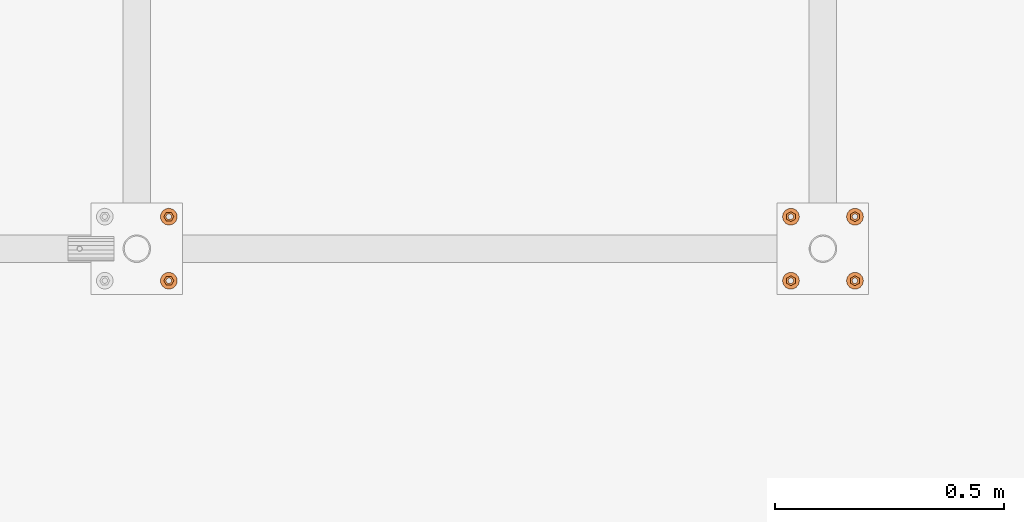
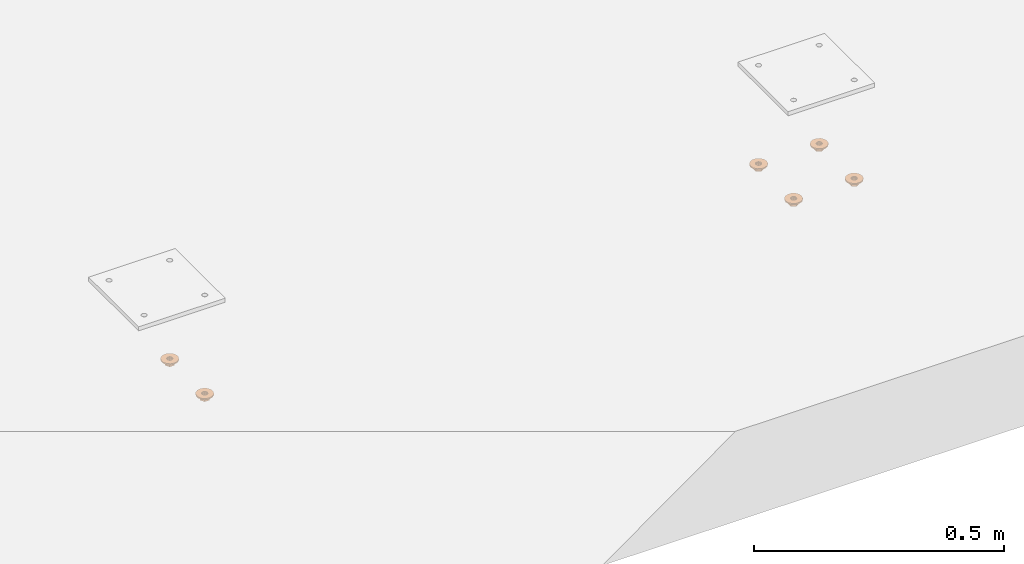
# One storey, part 27 of 30: 12 proxies.
"""IFC2X3 building model written with IfcOpenShell, lengths in millimetres."""

from ifc_helpers import new_model, entity, si_unit, converted_unit, origin_with_axes, place, context, project, spatial, faceted_brep, material, element, save


model = new_model("IFC2X3")

# Units and contexts
model_context = context("Model", 3, precision=1e-09, world=origin_with_axes())
ifc_project = project(units=[si_unit("LENGTHUNIT", "METRE", prefix="MILLI"), si_unit("AREAUNIT", "SQUARE_METRE"), si_unit("VOLUMEUNIT", "CUBIC_METRE"), converted_unit("PLANEANGLEUNIT", "DEGREE", entity("IfcPlaneAngleMeasure", 0.01745329), si_unit("PLANEANGLEUNIT", "RADIAN"), dimensions=[0, 0, 0, 0, 0, 0, 0])], contexts=[model_context])

# Site, building, storey
site_placement = place(None, origin_with_axes())
site = spatial("IfcSite", under=ifc_project, at=site_placement, Name="M?nsinger Stra?e, 81477 M?nchen", CompositionType="ELEMENT")
building_placement = place(site_placement, origin_with_axes())
building = spatial("IfcBuilding", under=site, at=building_placement, Name="Struktur 1", CompositionType="ELEMENT")
storey_placement = place(building_placement, origin_with_axes())
storey = spatial("IfcBuildingStorey", under=building, at=storey_placement, Name="Default Storey", CompositionType="ELEMENT", Elevation=0.0)

# Proxies
ifc_material = material(Name="Kein")
proxy_1_placement = place(None, origin_with_axes())
element("IfcBuildingElementProxy", 1, at=proxy_1_placement, inside=storey, material=ifc_material, ObjectType="-", context=model_context, shape_type="Brep", body=[
    faceted_brep([(7461.851234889, 1409.728698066, 6515.0), (7461.851234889, 1409.728698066, 6512.0), (7468.288268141, 1404.595335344, 6512.0), (7468.288268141, 1404.595335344, 6515.0), (7458.278950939, 1425.379896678, 6515.0), (7458.278950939, 1417.146622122, 6515.0), (7476.315117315, 1402.7632594, 6515.0), (7484.341966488, 1404.595335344, 6515.0), (7490.77899974, 1409.728698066, 6515.0), (7494.35128369, 1417.146622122, 6515.0), (7494.35128369, 1425.379896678, 6515.0), (7490.77899974, 1432.797820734, 6515.0), (7484.341966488, 1437.931183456, 6515.0), (7476.315117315, 1439.7632594, 6515.0), (7468.288268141, 1437.931183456, 6515.0), (7461.851234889, 1432.797820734, 6515.0), (7470.68595219, 1418.0132594, 6515.0), (7469.815117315, 1421.2632594, 6515.0), (7470.68595219, 1424.5132594, 6515.0), (7473.065117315, 1426.892424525, 6515.0), (7476.315117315, 1427.7632594, 6515.0), (7479.565117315, 1426.892424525, 6515.0), (7481.944282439, 1424.5132594, 6515.0), (7482.815117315, 1421.2632594, 6515.0), (7481.944282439, 1418.0132594, 6515.0), (7479.565117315, 1415.634094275, 6515.0), (7476.315117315, 1414.7632594, 6515.0), (7473.065117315, 1415.634094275, 6515.0), (7484.341966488, 1404.595335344, 6512.0), (7476.315117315, 1402.7632594, 6512.0), (7458.278950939, 1417.146622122, 6512.0), (7458.278950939, 1425.379896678, 6512.0), (7461.851234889, 1432.797820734, 6512.0), (7468.288268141, 1437.931183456, 6512.0), (7476.315117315, 1439.7632594, 6512.0), (7484.341966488, 1437.931183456, 6512.0), (7490.77899974, 1432.797820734, 6512.0), (7494.35128369, 1425.379896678, 6512.0), (7494.35128369, 1417.146622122, 6512.0), (7490.77899974, 1409.728698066, 6512.0), (7476.315117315, 1414.7632594, 6512.0), (7479.565117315, 1415.634094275, 6512.0), (7481.944282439, 1418.0132594, 6512.0), (7482.815117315, 1421.2632594, 6512.0), (7481.944282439, 1424.5132594, 6512.0), (7479.565117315, 1426.892424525, 6512.0), (7476.315117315, 1427.7632594, 6512.0), (7473.065117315, 1426.892424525, 6512.0), (7470.68595219, 1424.5132594, 6512.0), (7469.815117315, 1421.2632594, 6512.0), (7470.68595219, 1418.0132594, 6512.0), (7473.065117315, 1415.634094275, 6512.0)], [[[0, 1, 2, 3]], [[4, 5, 0, 3, 6, 7, 8, 9, 10, 11, 12, 13, 14, 15], [16, 17, 18, 19, 20, 21, 22, 23, 24, 25, 26, 27]], [[28, 29, 2, 1, 30, 31, 32, 33, 34, 35, 36, 37, 38, 39], [40, 41, 42, 43, 44, 45, 46, 47, 48, 49, 50, 51]], [[1, 0, 5, 30]], [[27, 51, 50, 16]], [[51, 27, 26, 40]], [[3, 2, 29, 6]], [[30, 5, 4, 31]], [[16, 50, 49, 17]], [[40, 26, 25, 41]], [[6, 29, 28, 7]], [[31, 4, 15, 32]], [[17, 49, 48, 18]], [[41, 25, 24, 42]], [[7, 28, 39, 8]], [[32, 15, 14, 33]], [[18, 48, 47, 19]], [[42, 24, 23, 43]], [[8, 39, 38, 9]], [[33, 14, 13, 34]], [[19, 47, 46, 20]], [[22, 44, 43, 23]], [[9, 38, 37, 10]], [[45, 21, 20, 46]], [[44, 22, 21, 45]], [[34, 13, 12, 35]], [[10, 37, 36, 11]], [[35, 12, 11, 36]]]),
])
proxy_2_placement = place(None, origin_with_axes())
element("IfcBuildingElementProxy", 2, at=proxy_2_placement, inside=storey, material=ifc_material, ObjectType="-", context=model_context, shape_type="Brep", body=[
    faceted_brep([(7476.315117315, 1415.2632594, 6512.0), (7476.315117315, 1415.2632594, 6502.0), (7473.315117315, 1416.067106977, 6502.0), (7473.315117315, 1416.067106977, 6512.0), (7471.118964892, 1418.2632594, 6502.0), (7471.118964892, 1418.2632594, 6512.0), (7479.315117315, 1416.067106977, 6512.0), (7479.315117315, 1416.067106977, 6502.0), (7481.799944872, 1411.7632594, 6512.0), (7487.284772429, 1421.2632594, 6512.0), (7481.799944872, 1430.7632594, 6512.0), (7470.830289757, 1430.7632594, 6512.0), (7465.3454622, 1421.2632594, 6512.0), (7470.830289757, 1411.7632594, 6512.0), (7481.511269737, 1418.2632594, 6512.0), (7470.315117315, 1421.2632594, 6512.0), (7471.118964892, 1424.2632594, 6512.0), (7473.315117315, 1426.459411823, 6512.0), (7476.315117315, 1427.2632594, 6512.0), (7479.315117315, 1426.459411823, 6512.0), (7481.511269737, 1424.2632594, 6512.0), (7482.315117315, 1421.2632594, 6512.0), (7487.284772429, 1421.2632594, 6502.0), (7481.799944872, 1411.7632594, 6502.0), (7470.830289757, 1411.7632594, 6502.0), (7465.3454622, 1421.2632594, 6502.0), (7470.830289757, 1430.7632594, 6502.0), (7481.799944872, 1430.7632594, 6502.0), (7481.511269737, 1418.2632594, 6502.0), (7482.315117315, 1421.2632594, 6502.0), (7481.511269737, 1424.2632594, 6502.0), (7479.315117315, 1426.459411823, 6502.0), (7476.315117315, 1427.2632594, 6502.0), (7473.315117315, 1426.459411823, 6502.0), (7471.118964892, 1424.2632594, 6502.0), (7470.315117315, 1421.2632594, 6502.0)], [[[0, 1, 2, 3]], [[3, 2, 4, 5]], [[1, 0, 6, 7]], [[8, 9, 10, 11, 12, 13], [14, 6, 0, 3, 5, 15, 16, 17, 18, 19, 20, 21]], [[22, 23, 24, 25, 26, 27], [1, 7, 28, 29, 30, 31, 32, 33, 34, 35, 4, 2]], [[7, 6, 14, 28]], [[24, 23, 8, 13]], [[5, 4, 35, 15]], [[13, 12, 25, 24]], [[28, 14, 21, 29]], [[23, 22, 9, 8]], [[15, 35, 34, 16]], [[12, 11, 26, 25]], [[29, 21, 20, 30]], [[22, 27, 10, 9]], [[16, 34, 33, 17]], [[27, 26, 11, 10]], [[30, 20, 19, 31]], [[17, 33, 32, 18]], [[31, 19, 18, 32]]]),
])
proxy_3_placement = place(None, origin_with_axes())
element("IfcBuildingElementProxy", 3, at=proxy_3_placement, inside=storey, material=ifc_material, ObjectType="-", context=model_context, shape_type="Brep", body=[
    faceted_brep([(7476.315117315, 1555.2632594, 6512.0), (7476.315117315, 1555.2632594, 6502.0), (7473.315117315, 1556.067106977, 6502.0), (7473.315117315, 1556.067106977, 6512.0), (7471.118964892, 1558.2632594, 6502.0), (7471.118964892, 1558.2632594, 6512.0), (7479.315117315, 1556.067106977, 6512.0), (7479.315117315, 1556.067106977, 6502.0), (7481.799944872, 1551.7632594, 6512.0), (7487.284772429, 1561.2632594, 6512.0), (7481.799944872, 1570.7632594, 6512.0), (7470.830289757, 1570.7632594, 6512.0), (7465.3454622, 1561.2632594, 6512.0), (7470.830289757, 1551.7632594, 6512.0), (7481.511269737, 1558.2632594, 6512.0), (7470.315117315, 1561.2632594, 6512.0), (7471.118964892, 1564.2632594, 6512.0), (7473.315117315, 1566.459411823, 6512.0), (7476.315117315, 1567.2632594, 6512.0), (7479.315117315, 1566.459411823, 6512.0), (7481.511269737, 1564.2632594, 6512.0), (7482.315117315, 1561.2632594, 6512.0), (7487.284772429, 1561.2632594, 6502.0), (7481.799944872, 1551.7632594, 6502.0), (7470.830289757, 1551.7632594, 6502.0), (7465.3454622, 1561.2632594, 6502.0), (7470.830289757, 1570.7632594, 6502.0), (7481.799944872, 1570.7632594, 6502.0), (7481.511269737, 1558.2632594, 6502.0), (7482.315117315, 1561.2632594, 6502.0), (7481.511269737, 1564.2632594, 6502.0), (7479.315117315, 1566.459411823, 6502.0), (7476.315117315, 1567.2632594, 6502.0), (7473.315117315, 1566.459411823, 6502.0), (7471.118964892, 1564.2632594, 6502.0), (7470.315117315, 1561.2632594, 6502.0)], [[[0, 1, 2, 3]], [[3, 2, 4, 5]], [[1, 0, 6, 7]], [[8, 9, 10, 11, 12, 13], [14, 6, 0, 3, 5, 15, 16, 17, 18, 19, 20, 21]], [[22, 23, 24, 25, 26, 27], [1, 7, 28, 29, 30, 31, 32, 33, 34, 35, 4, 2]], [[7, 6, 14, 28]], [[24, 23, 8, 13]], [[5, 4, 35, 15]], [[13, 12, 25, 24]], [[28, 14, 21, 29]], [[23, 22, 9, 8]], [[15, 35, 34, 16]], [[12, 11, 26, 25]], [[29, 21, 20, 30]], [[22, 27, 10, 9]], [[16, 34, 33, 17]], [[27, 26, 11, 10]], [[30, 20, 19, 31]], [[17, 33, 32, 18]], [[31, 19, 18, 32]]]),
])
proxy_4_placement = place(None, origin_with_axes())
element("IfcBuildingElementProxy", 4, at=proxy_4_placement, inside=storey, material=ifc_material, ObjectType="-", context=model_context, shape_type="Brep", body=[
    faceted_brep([(7461.851234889, 1549.728698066, 6515.0), (7461.851234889, 1549.728698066, 6512.0), (7468.288268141, 1544.595335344, 6512.0), (7468.288268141, 1544.595335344, 6515.0), (7458.278950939, 1565.379896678, 6515.0), (7458.278950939, 1557.146622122, 6515.0), (7476.315117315, 1542.7632594, 6515.0), (7484.341966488, 1544.595335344, 6515.0), (7490.77899974, 1549.728698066, 6515.0), (7494.35128369, 1557.146622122, 6515.0), (7494.35128369, 1565.379896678, 6515.0), (7490.77899974, 1572.797820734, 6515.0), (7484.341966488, 1577.931183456, 6515.0), (7476.315117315, 1579.7632594, 6515.0), (7468.288268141, 1577.931183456, 6515.0), (7461.851234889, 1572.797820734, 6515.0), (7470.68595219, 1558.0132594, 6515.0), (7469.815117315, 1561.2632594, 6515.0), (7470.68595219, 1564.5132594, 6515.0), (7473.065117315, 1566.892424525, 6515.0), (7476.315117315, 1567.7632594, 6515.0), (7479.565117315, 1566.892424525, 6515.0), (7481.944282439, 1564.5132594, 6515.0), (7482.815117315, 1561.2632594, 6515.0), (7481.944282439, 1558.0132594, 6515.0), (7479.565117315, 1555.634094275, 6515.0), (7476.315117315, 1554.7632594, 6515.0), (7473.065117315, 1555.634094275, 6515.0), (7484.341966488, 1544.595335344, 6512.0), (7476.315117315, 1542.7632594, 6512.0), (7458.278950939, 1557.146622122, 6512.0), (7458.278950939, 1565.379896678, 6512.0), (7461.851234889, 1572.797820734, 6512.0), (7468.288268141, 1577.931183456, 6512.0), (7476.315117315, 1579.7632594, 6512.0), (7484.341966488, 1577.931183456, 6512.0), (7490.77899974, 1572.797820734, 6512.0), (7494.35128369, 1565.379896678, 6512.0), (7494.35128369, 1557.146622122, 6512.0), (7490.77899974, 1549.728698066, 6512.0), (7476.315117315, 1554.7632594, 6512.0), (7479.565117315, 1555.634094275, 6512.0), (7481.944282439, 1558.0132594, 6512.0), (7482.815117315, 1561.2632594, 6512.0), (7481.944282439, 1564.5132594, 6512.0), (7479.565117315, 1566.892424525, 6512.0), (7476.315117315, 1567.7632594, 6512.0), (7473.065117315, 1566.892424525, 6512.0), (7470.68595219, 1564.5132594, 6512.0), (7469.815117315, 1561.2632594, 6512.0), (7470.68595219, 1558.0132594, 6512.0), (7473.065117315, 1555.634094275, 6512.0)], [[[0, 1, 2, 3]], [[4, 5, 0, 3, 6, 7, 8, 9, 10, 11, 12, 13, 14, 15], [16, 17, 18, 19, 20, 21, 22, 23, 24, 25, 26, 27]], [[28, 29, 2, 1, 30, 31, 32, 33, 34, 35, 36, 37, 38, 39], [40, 41, 42, 43, 44, 45, 46, 47, 48, 49, 50, 51]], [[1, 0, 5, 30]], [[27, 51, 50, 16]], [[51, 27, 26, 40]], [[3, 2, 29, 6]], [[30, 5, 4, 31]], [[16, 50, 49, 17]], [[40, 26, 25, 41]], [[6, 29, 28, 7]], [[31, 4, 15, 32]], [[17, 49, 48, 18]], [[41, 25, 24, 42]], [[7, 28, 39, 8]], [[32, 15, 14, 33]], [[18, 48, 47, 19]], [[42, 24, 23, 43]], [[8, 39, 38, 9]], [[33, 14, 13, 34]], [[19, 47, 46, 20]], [[22, 44, 43, 23]], [[9, 38, 37, 10]], [[45, 21, 20, 46]], [[44, 22, 21, 45]], [[34, 13, 12, 35]], [[10, 37, 36, 11]], [[35, 12, 11, 36]]]),
])
proxy_5_placement = place(None, origin_with_axes())
element("IfcBuildingElementProxy", 5, at=proxy_5_placement, inside=storey, material=ifc_material, ObjectType="-", context=model_context, shape_type="Brep", body=[
    faceted_brep([(8987.849678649, 1435.727141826, 6512.0), (8987.849678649, 1435.727141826, 6515.0), (8992.983041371, 1429.290108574, 6515.0), (8992.983041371, 1429.290108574, 6512.0), (8980.431754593, 1439.299425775, 6515.0), (8972.198480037, 1439.299425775, 6515.0), (8964.78055598, 1435.727141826, 6515.0), (8959.647193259, 1429.290108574, 6515.0), (8957.815117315, 1421.2632594, 6515.0), (8959.647193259, 1413.236410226, 6515.0), (8964.78055598, 1406.799376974, 6515.0), (8972.198480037, 1403.227093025, 6515.0), (8980.431754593, 1403.227093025, 6515.0), (8987.849678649, 1406.799376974, 6515.0), (8992.983041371, 1413.236410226, 6515.0), (8994.815117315, 1421.2632594, 6515.0), (8979.565117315, 1426.892424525, 6515.0), (8981.944282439, 1424.5132594, 6515.0), (8982.815117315, 1421.2632594, 6515.0), (8981.944282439, 1418.0132594, 6515.0), (8979.565117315, 1415.634094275, 6515.0), (8976.315117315, 1414.7632594, 6515.0), (8973.065117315, 1415.634094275, 6515.0), (8970.68595219, 1418.0132594, 6515.0), (8969.815117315, 1421.2632594, 6515.0), (8970.68595219, 1424.5132594, 6515.0), (8973.065117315, 1426.892424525, 6515.0), (8976.315117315, 1427.7632594, 6515.0), (8994.815117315, 1421.2632594, 6512.0), (8992.983041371, 1413.236410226, 6512.0), (8987.849678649, 1406.799376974, 6512.0), (8980.431754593, 1403.227093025, 6512.0), (8972.198480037, 1403.227093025, 6512.0), (8964.78055598, 1406.799376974, 6512.0), (8959.647193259, 1413.236410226, 6512.0), (8957.815117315, 1421.2632594, 6512.0), (8959.647193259, 1429.290108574, 6512.0), (8964.78055598, 1435.727141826, 6512.0), (8972.198480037, 1439.299425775, 6512.0), (8980.431754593, 1439.299425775, 6512.0), (8982.815117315, 1421.2632594, 6512.0), (8981.944282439, 1424.5132594, 6512.0), (8979.565117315, 1426.892424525, 6512.0), (8976.315117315, 1427.7632594, 6512.0), (8973.065117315, 1426.892424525, 6512.0), (8970.68595219, 1424.5132594, 6512.0), (8969.815117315, 1421.2632594, 6512.0), (8970.68595219, 1418.0132594, 6512.0), (8973.065117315, 1415.634094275, 6512.0), (8976.315117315, 1414.7632594, 6512.0), (8979.565117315, 1415.634094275, 6512.0), (8981.944282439, 1418.0132594, 6512.0)], [[[0, 1, 2, 3]], [[4, 5, 6, 7, 8, 9, 10, 11, 12, 13, 14, 15, 2, 1], [16, 17, 18, 19, 20, 21, 22, 23, 24, 25, 26, 27]], [[28, 29, 30, 31, 32, 33, 34, 35, 36, 37, 38, 39, 0, 3], [40, 41, 42, 43, 44, 45, 46, 47, 48, 49, 50, 51]], [[1, 0, 39, 4]], [[41, 17, 16, 42]], [[17, 41, 40, 18]], [[3, 2, 15, 28]], [[4, 39, 38, 5]], [[42, 16, 27, 43]], [[18, 40, 51, 19]], [[28, 15, 14, 29]], [[5, 38, 37, 6]], [[43, 27, 26, 44]], [[19, 51, 50, 20]], [[29, 14, 13, 30]], [[6, 37, 36, 7]], [[44, 26, 25, 45]], [[20, 50, 49, 21]], [[30, 13, 12, 31]], [[7, 36, 35, 8]], [[45, 25, 24, 46]], [[48, 22, 21, 49]], [[31, 12, 11, 32]], [[23, 47, 46, 24]], [[22, 48, 47, 23]], [[8, 35, 34, 9]], [[32, 11, 10, 33]], [[9, 34, 33, 10]]]),
])
proxy_6_placement = place(None, origin_with_axes())
element("IfcBuildingElementProxy", 6, at=proxy_6_placement, inside=storey, material=ifc_material, ObjectType="-", context=model_context, shape_type="Brep", body=[
    faceted_brep([(8982.315117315, 1421.2632594, 6502.0), (8982.315117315, 1421.2632594, 6512.0), (8981.511269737, 1424.2632594, 6512.0), (8981.511269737, 1424.2632594, 6502.0), (8979.315117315, 1426.459411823, 6512.0), (8979.315117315, 1426.459411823, 6502.0), (8981.511269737, 1418.2632594, 6502.0), (8981.511269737, 1418.2632594, 6512.0), (8985.815117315, 1415.778431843, 6512.0), (8985.815117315, 1426.748086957, 6512.0), (8976.315117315, 1432.232914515, 6512.0), (8966.815117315, 1426.748086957, 6512.0), (8966.815117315, 1415.778431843, 6512.0), (8976.315117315, 1410.293604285, 6512.0), (8979.315117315, 1416.067106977, 6512.0), (8976.315117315, 1415.2632594, 6512.0), (8973.315117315, 1416.067106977, 6512.0), (8971.118964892, 1418.2632594, 6512.0), (8970.315117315, 1421.2632594, 6512.0), (8971.118964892, 1424.2632594, 6512.0), (8973.315117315, 1426.459411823, 6512.0), (8976.315117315, 1427.2632594, 6512.0), (8985.815117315, 1415.778431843, 6502.0), (8976.315117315, 1410.293604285, 6502.0), (8966.815117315, 1415.778431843, 6502.0), (8966.815117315, 1426.748086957, 6502.0), (8976.315117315, 1432.232914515, 6502.0), (8985.815117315, 1426.748086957, 6502.0), (8979.315117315, 1416.067106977, 6502.0), (8976.315117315, 1427.2632594, 6502.0), (8976.315117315, 1415.2632594, 6502.0), (8973.315117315, 1426.459411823, 6502.0), (8973.315117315, 1416.067106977, 6502.0), (8971.118964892, 1424.2632594, 6502.0), (8971.118964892, 1418.2632594, 6502.0), (8970.315117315, 1421.2632594, 6502.0)], [[[0, 1, 2, 3]], [[3, 2, 4, 5]], [[1, 0, 6, 7]], [[8, 9, 10, 11, 12, 13], [7, 14, 15, 16, 17, 18, 19, 20, 21, 4, 2, 1]], [[22, 23, 24, 25, 26, 27]], [[7, 6, 28, 14]], [[22, 27, 9, 8]], [[5, 4, 21, 29]], [[10, 9, 27, 26]], [[14, 28, 30, 15]], [[23, 22, 8, 13]], [[29, 21, 20, 31]], [[11, 10, 26, 25]], [[15, 30, 32, 16]], [[24, 23, 13, 12]], [[31, 20, 19, 33]], [[25, 24, 12, 11]], [[16, 32, 34, 17]], [[33, 19, 18, 35]], [[17, 34, 35, 18]]]),
])
proxy_7_placement = place(None, origin_with_axes())
element("IfcBuildingElementProxy", 7, at=proxy_7_placement, inside=storey, material=ifc_material, ObjectType="-", context=model_context, shape_type="Brep", body=[
    faceted_brep([(8842.315117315, 1421.2632594, 6502.0), (8842.315117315, 1421.2632594, 6512.0), (8841.511269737, 1424.2632594, 6512.0), (8841.511269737, 1424.2632594, 6502.0), (8839.315117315, 1426.459411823, 6512.0), (8839.315117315, 1426.459411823, 6502.0), (8841.511269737, 1418.2632594, 6502.0), (8841.511269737, 1418.2632594, 6512.0), (8845.815117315, 1415.778431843, 6512.0), (8845.815117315, 1426.748086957, 6512.0), (8836.315117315, 1432.232914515, 6512.0), (8826.815117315, 1426.748086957, 6512.0), (8826.815117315, 1415.778431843, 6512.0), (8836.315117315, 1410.293604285, 6512.0), (8839.315117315, 1416.067106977, 6512.0), (8836.315117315, 1415.2632594, 6512.0), (8833.315117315, 1416.067106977, 6512.0), (8831.118964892, 1418.2632594, 6512.0), (8830.315117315, 1421.2632594, 6512.0), (8831.118964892, 1424.2632594, 6512.0), (8833.315117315, 1426.459411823, 6512.0), (8836.315117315, 1427.2632594, 6512.0), (8845.815117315, 1415.778431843, 6502.0), (8836.315117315, 1410.293604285, 6502.0), (8826.815117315, 1415.778431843, 6502.0), (8826.815117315, 1426.748086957, 6502.0), (8836.315117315, 1432.232914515, 6502.0), (8845.815117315, 1426.748086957, 6502.0), (8839.315117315, 1416.067106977, 6502.0), (8836.315117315, 1427.2632594, 6502.0), (8836.315117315, 1415.2632594, 6502.0), (8833.315117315, 1426.459411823, 6502.0), (8833.315117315, 1416.067106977, 6502.0), (8831.118964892, 1424.2632594, 6502.0), (8831.118964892, 1418.2632594, 6502.0), (8830.315117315, 1421.2632594, 6502.0)], [[[0, 1, 2, 3]], [[3, 2, 4, 5]], [[1, 0, 6, 7]], [[8, 9, 10, 11, 12, 13], [7, 14, 15, 16, 17, 18, 19, 20, 21, 4, 2, 1]], [[22, 23, 24, 25, 26, 27]], [[7, 6, 28, 14]], [[22, 27, 9, 8]], [[5, 4, 21, 29]], [[10, 9, 27, 26]], [[14, 28, 30, 15]], [[23, 22, 8, 13]], [[29, 21, 20, 31]], [[11, 10, 26, 25]], [[15, 30, 32, 16]], [[24, 23, 13, 12]], [[31, 20, 19, 33]], [[25, 24, 12, 11]], [[16, 32, 34, 17]], [[33, 19, 18, 35]], [[17, 34, 35, 18]]]),
])
proxy_8_placement = place(None, origin_with_axes())
element("IfcBuildingElementProxy", 8, at=proxy_8_placement, inside=storey, material=ifc_material, ObjectType="-", context=model_context, shape_type="Brep", body=[
    faceted_brep([(8847.849678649, 1435.727141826, 6512.0), (8847.849678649, 1435.727141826, 6515.0), (8852.983041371, 1429.290108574, 6515.0), (8852.983041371, 1429.290108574, 6512.0), (8840.431754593, 1439.299425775, 6515.0), (8832.198480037, 1439.299425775, 6515.0), (8824.78055598, 1435.727141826, 6515.0), (8819.647193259, 1429.290108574, 6515.0), (8817.815117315, 1421.2632594, 6515.0), (8819.647193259, 1413.236410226, 6515.0), (8824.78055598, 1406.799376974, 6515.0), (8832.198480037, 1403.227093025, 6515.0), (8840.431754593, 1403.227093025, 6515.0), (8847.849678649, 1406.799376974, 6515.0), (8852.983041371, 1413.236410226, 6515.0), (8854.815117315, 1421.2632594, 6515.0), (8839.565117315, 1426.892424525, 6515.0), (8841.944282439, 1424.5132594, 6515.0), (8842.815117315, 1421.2632594, 6515.0), (8841.944282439, 1418.0132594, 6515.0), (8839.565117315, 1415.634094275, 6515.0), (8836.315117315, 1414.7632594, 6515.0), (8833.065117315, 1415.634094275, 6515.0), (8830.68595219, 1418.0132594, 6515.0), (8829.815117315, 1421.2632594, 6515.0), (8830.68595219, 1424.5132594, 6515.0), (8833.065117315, 1426.892424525, 6515.0), (8836.315117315, 1427.7632594, 6515.0), (8854.815117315, 1421.2632594, 6512.0), (8852.983041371, 1413.236410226, 6512.0), (8847.849678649, 1406.799376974, 6512.0), (8840.431754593, 1403.227093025, 6512.0), (8832.198480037, 1403.227093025, 6512.0), (8824.78055598, 1406.799376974, 6512.0), (8819.647193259, 1413.236410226, 6512.0), (8817.815117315, 1421.2632594, 6512.0), (8819.647193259, 1429.290108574, 6512.0), (8824.78055598, 1435.727141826, 6512.0), (8832.198480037, 1439.299425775, 6512.0), (8840.431754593, 1439.299425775, 6512.0), (8842.815117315, 1421.2632594, 6512.0), (8841.944282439, 1424.5132594, 6512.0), (8839.565117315, 1426.892424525, 6512.0), (8836.315117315, 1427.7632594, 6512.0), (8833.065117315, 1426.892424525, 6512.0), (8830.68595219, 1424.5132594, 6512.0), (8829.815117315, 1421.2632594, 6512.0), (8830.68595219, 1418.0132594, 6512.0), (8833.065117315, 1415.634094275, 6512.0), (8836.315117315, 1414.7632594, 6512.0), (8839.565117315, 1415.634094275, 6512.0), (8841.944282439, 1418.0132594, 6512.0)], [[[0, 1, 2, 3]], [[4, 5, 6, 7, 8, 9, 10, 11, 12, 13, 14, 15, 2, 1], [16, 17, 18, 19, 20, 21, 22, 23, 24, 25, 26, 27]], [[28, 29, 30, 31, 32, 33, 34, 35, 36, 37, 38, 39, 0, 3], [40, 41, 42, 43, 44, 45, 46, 47, 48, 49, 50, 51]], [[1, 0, 39, 4]], [[41, 17, 16, 42]], [[17, 41, 40, 18]], [[3, 2, 15, 28]], [[4, 39, 38, 5]], [[42, 16, 27, 43]], [[18, 40, 51, 19]], [[28, 15, 14, 29]], [[5, 38, 37, 6]], [[43, 27, 26, 44]], [[19, 51, 50, 20]], [[29, 14, 13, 30]], [[6, 37, 36, 7]], [[44, 26, 25, 45]], [[20, 50, 49, 21]], [[30, 13, 12, 31]], [[7, 36, 35, 8]], [[45, 25, 24, 46]], [[48, 22, 21, 49]], [[31, 12, 11, 32]], [[23, 47, 46, 24]], [[22, 48, 47, 23]], [[8, 35, 34, 9]], [[32, 11, 10, 33]], [[9, 34, 33, 10]]]),
])
proxy_9_placement = place(None, origin_with_axes())
element("IfcBuildingElementProxy", 9, at=proxy_9_placement, inside=storey, material=ifc_material, ObjectType="-", context=model_context, shape_type="Brep", body=[
    faceted_brep([(8847.849678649, 1575.727141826, 6512.0), (8847.849678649, 1575.727141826, 6515.0), (8852.983041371, 1569.290108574, 6515.0), (8852.983041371, 1569.290108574, 6512.0), (8840.431754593, 1579.299425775, 6515.0), (8832.198480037, 1579.299425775, 6515.0), (8824.78055598, 1575.727141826, 6515.0), (8819.647193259, 1569.290108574, 6515.0), (8817.815117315, 1561.2632594, 6515.0), (8819.647193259, 1553.236410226, 6515.0), (8824.78055598, 1546.799376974, 6515.0), (8832.198480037, 1543.227093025, 6515.0), (8840.431754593, 1543.227093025, 6515.0), (8847.849678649, 1546.799376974, 6515.0), (8852.983041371, 1553.236410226, 6515.0), (8854.815117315, 1561.2632594, 6515.0), (8839.565117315, 1566.892424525, 6515.0), (8841.944282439, 1564.5132594, 6515.0), (8842.815117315, 1561.2632594, 6515.0), (8841.944282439, 1558.0132594, 6515.0), (8839.565117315, 1555.634094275, 6515.0), (8836.315117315, 1554.7632594, 6515.0), (8833.065117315, 1555.634094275, 6515.0), (8830.68595219, 1558.0132594, 6515.0), (8829.815117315, 1561.2632594, 6515.0), (8830.68595219, 1564.5132594, 6515.0), (8833.065117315, 1566.892424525, 6515.0), (8836.315117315, 1567.7632594, 6515.0), (8854.815117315, 1561.2632594, 6512.0), (8852.983041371, 1553.236410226, 6512.0), (8847.849678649, 1546.799376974, 6512.0), (8840.431754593, 1543.227093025, 6512.0), (8832.198480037, 1543.227093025, 6512.0), (8824.78055598, 1546.799376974, 6512.0), (8819.647193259, 1553.236410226, 6512.0), (8817.815117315, 1561.2632594, 6512.0), (8819.647193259, 1569.290108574, 6512.0), (8824.78055598, 1575.727141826, 6512.0), (8832.198480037, 1579.299425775, 6512.0), (8840.431754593, 1579.299425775, 6512.0), (8842.815117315, 1561.2632594, 6512.0), (8841.944282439, 1564.5132594, 6512.0), (8839.565117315, 1566.892424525, 6512.0), (8836.315117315, 1567.7632594, 6512.0), (8833.065117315, 1566.892424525, 6512.0), (8830.68595219, 1564.5132594, 6512.0), (8829.815117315, 1561.2632594, 6512.0), (8830.68595219, 1558.0132594, 6512.0), (8833.065117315, 1555.634094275, 6512.0), (8836.315117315, 1554.7632594, 6512.0), (8839.565117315, 1555.634094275, 6512.0), (8841.944282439, 1558.0132594, 6512.0)], [[[0, 1, 2, 3]], [[4, 5, 6, 7, 8, 9, 10, 11, 12, 13, 14, 15, 2, 1], [16, 17, 18, 19, 20, 21, 22, 23, 24, 25, 26, 27]], [[28, 29, 30, 31, 32, 33, 34, 35, 36, 37, 38, 39, 0, 3], [40, 41, 42, 43, 44, 45, 46, 47, 48, 49, 50, 51]], [[1, 0, 39, 4]], [[41, 17, 16, 42]], [[17, 41, 40, 18]], [[3, 2, 15, 28]], [[4, 39, 38, 5]], [[42, 16, 27, 43]], [[18, 40, 51, 19]], [[28, 15, 14, 29]], [[5, 38, 37, 6]], [[43, 27, 26, 44]], [[19, 51, 50, 20]], [[29, 14, 13, 30]], [[6, 37, 36, 7]], [[44, 26, 25, 45]], [[20, 50, 49, 21]], [[30, 13, 12, 31]], [[7, 36, 35, 8]], [[45, 25, 24, 46]], [[48, 22, 21, 49]], [[31, 12, 11, 32]], [[23, 47, 46, 24]], [[22, 48, 47, 23]], [[8, 35, 34, 9]], [[32, 11, 10, 33]], [[9, 34, 33, 10]]]),
])
proxy_10_placement = place(None, origin_with_axes())
element("IfcBuildingElementProxy", 10, at=proxy_10_placement, inside=storey, material=ifc_material, ObjectType="-", context=model_context, shape_type="Brep", body=[
    faceted_brep([(8842.315117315, 1561.2632594, 6502.0), (8842.315117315, 1561.2632594, 6512.0), (8841.511269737, 1564.2632594, 6512.0), (8841.511269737, 1564.2632594, 6502.0), (8839.315117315, 1566.459411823, 6512.0), (8839.315117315, 1566.459411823, 6502.0), (8841.511269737, 1558.2632594, 6502.0), (8841.511269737, 1558.2632594, 6512.0), (8845.815117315, 1555.778431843, 6512.0), (8845.815117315, 1566.748086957, 6512.0), (8836.315117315, 1572.232914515, 6512.0), (8826.815117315, 1566.748086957, 6512.0), (8826.815117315, 1555.778431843, 6512.0), (8836.315117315, 1550.293604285, 6512.0), (8839.315117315, 1556.067106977, 6512.0), (8836.315117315, 1555.2632594, 6512.0), (8833.315117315, 1556.067106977, 6512.0), (8831.118964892, 1558.2632594, 6512.0), (8830.315117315, 1561.2632594, 6512.0), (8831.118964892, 1564.2632594, 6512.0), (8833.315117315, 1566.459411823, 6512.0), (8836.315117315, 1567.2632594, 6512.0), (8845.815117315, 1555.778431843, 6502.0), (8836.315117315, 1550.293604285, 6502.0), (8826.815117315, 1555.778431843, 6502.0), (8826.815117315, 1566.748086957, 6502.0), (8836.315117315, 1572.232914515, 6502.0), (8845.815117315, 1566.748086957, 6502.0), (8839.315117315, 1556.067106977, 6502.0), (8836.315117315, 1567.2632594, 6502.0), (8836.315117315, 1555.2632594, 6502.0), (8833.315117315, 1566.459411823, 6502.0), (8833.315117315, 1556.067106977, 6502.0), (8831.118964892, 1564.2632594, 6502.0), (8831.118964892, 1558.2632594, 6502.0), (8830.315117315, 1561.2632594, 6502.0)], [[[0, 1, 2, 3]], [[3, 2, 4, 5]], [[1, 0, 6, 7]], [[8, 9, 10, 11, 12, 13], [7, 14, 15, 16, 17, 18, 19, 20, 21, 4, 2, 1]], [[22, 23, 24, 25, 26, 27]], [[7, 6, 28, 14]], [[22, 27, 9, 8]], [[5, 4, 21, 29]], [[10, 9, 27, 26]], [[14, 28, 30, 15]], [[23, 22, 8, 13]], [[29, 21, 20, 31]], [[11, 10, 26, 25]], [[15, 30, 32, 16]], [[24, 23, 13, 12]], [[31, 20, 19, 33]], [[25, 24, 12, 11]], [[16, 32, 34, 17]], [[33, 19, 18, 35]], [[17, 34, 35, 18]]]),
])
proxy_11_placement = place(None, origin_with_axes())
element("IfcBuildingElementProxy", 11, at=proxy_11_placement, inside=storey, material=ifc_material, ObjectType="-", context=model_context, shape_type="Brep", body=[
    faceted_brep([(8982.315117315, 1561.2632594, 6502.0), (8982.315117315, 1561.2632594, 6512.0), (8981.511269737, 1564.2632594, 6512.0), (8981.511269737, 1564.2632594, 6502.0), (8979.315117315, 1566.459411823, 6512.0), (8979.315117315, 1566.459411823, 6502.0), (8981.511269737, 1558.2632594, 6502.0), (8981.511269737, 1558.2632594, 6512.0), (8985.815117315, 1555.778431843, 6512.0), (8985.815117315, 1566.748086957, 6512.0), (8976.315117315, 1572.232914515, 6512.0), (8966.815117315, 1566.748086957, 6512.0), (8966.815117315, 1555.778431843, 6512.0), (8976.315117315, 1550.293604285, 6512.0), (8979.315117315, 1556.067106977, 6512.0), (8976.315117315, 1555.2632594, 6512.0), (8973.315117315, 1556.067106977, 6512.0), (8971.118964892, 1558.2632594, 6512.0), (8970.315117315, 1561.2632594, 6512.0), (8971.118964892, 1564.2632594, 6512.0), (8973.315117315, 1566.459411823, 6512.0), (8976.315117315, 1567.2632594, 6512.0), (8985.815117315, 1555.778431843, 6502.0), (8976.315117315, 1550.293604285, 6502.0), (8966.815117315, 1555.778431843, 6502.0), (8966.815117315, 1566.748086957, 6502.0), (8976.315117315, 1572.232914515, 6502.0), (8985.815117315, 1566.748086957, 6502.0), (8979.315117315, 1556.067106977, 6502.0), (8976.315117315, 1567.2632594, 6502.0), (8976.315117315, 1555.2632594, 6502.0), (8973.315117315, 1566.459411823, 6502.0), (8973.315117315, 1556.067106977, 6502.0), (8971.118964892, 1564.2632594, 6502.0), (8971.118964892, 1558.2632594, 6502.0), (8970.315117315, 1561.2632594, 6502.0)], [[[0, 1, 2, 3]], [[3, 2, 4, 5]], [[1, 0, 6, 7]], [[8, 9, 10, 11, 12, 13], [7, 14, 15, 16, 17, 18, 19, 20, 21, 4, 2, 1]], [[22, 23, 24, 25, 26, 27]], [[7, 6, 28, 14]], [[22, 27, 9, 8]], [[5, 4, 21, 29]], [[10, 9, 27, 26]], [[14, 28, 30, 15]], [[23, 22, 8, 13]], [[29, 21, 20, 31]], [[11, 10, 26, 25]], [[15, 30, 32, 16]], [[24, 23, 13, 12]], [[31, 20, 19, 33]], [[25, 24, 12, 11]], [[16, 32, 34, 17]], [[33, 19, 18, 35]], [[17, 34, 35, 18]]]),
])
proxy_12_placement = place(None, origin_with_axes())
element("IfcBuildingElementProxy", 12, at=proxy_12_placement, inside=storey, material=ifc_material, ObjectType="-", context=model_context, shape_type="Brep", body=[
    faceted_brep([(8987.849678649, 1575.727141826, 6512.0), (8987.849678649, 1575.727141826, 6515.0), (8992.983041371, 1569.290108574, 6515.0), (8992.983041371, 1569.290108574, 6512.0), (8980.431754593, 1579.299425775, 6515.0), (8972.198480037, 1579.299425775, 6515.0), (8964.78055598, 1575.727141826, 6515.0), (8959.647193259, 1569.290108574, 6515.0), (8957.815117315, 1561.2632594, 6515.0), (8959.647193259, 1553.236410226, 6515.0), (8964.78055598, 1546.799376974, 6515.0), (8972.198480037, 1543.227093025, 6515.0), (8980.431754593, 1543.227093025, 6515.0), (8987.849678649, 1546.799376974, 6515.0), (8992.983041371, 1553.236410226, 6515.0), (8994.815117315, 1561.2632594, 6515.0), (8979.565117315, 1566.892424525, 6515.0), (8981.944282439, 1564.5132594, 6515.0), (8982.815117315, 1561.2632594, 6515.0), (8981.944282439, 1558.0132594, 6515.0), (8979.565117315, 1555.634094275, 6515.0), (8976.315117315, 1554.7632594, 6515.0), (8973.065117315, 1555.634094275, 6515.0), (8970.68595219, 1558.0132594, 6515.0), (8969.815117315, 1561.2632594, 6515.0), (8970.68595219, 1564.5132594, 6515.0), (8973.065117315, 1566.892424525, 6515.0), (8976.315117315, 1567.7632594, 6515.0), (8994.815117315, 1561.2632594, 6512.0), (8992.983041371, 1553.236410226, 6512.0), (8987.849678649, 1546.799376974, 6512.0), (8980.431754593, 1543.227093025, 6512.0), (8972.198480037, 1543.227093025, 6512.0), (8964.78055598, 1546.799376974, 6512.0), (8959.647193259, 1553.236410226, 6512.0), (8957.815117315, 1561.2632594, 6512.0), (8959.647193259, 1569.290108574, 6512.0), (8964.78055598, 1575.727141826, 6512.0), (8972.198480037, 1579.299425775, 6512.0), (8980.431754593, 1579.299425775, 6512.0), (8982.815117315, 1561.2632594, 6512.0), (8981.944282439, 1564.5132594, 6512.0), (8979.565117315, 1566.892424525, 6512.0), (8976.315117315, 1567.7632594, 6512.0), (8973.065117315, 1566.892424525, 6512.0), (8970.68595219, 1564.5132594, 6512.0), (8969.815117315, 1561.2632594, 6512.0), (8970.68595219, 1558.0132594, 6512.0), (8973.065117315, 1555.634094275, 6512.0), (8976.315117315, 1554.7632594, 6512.0), (8979.565117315, 1555.634094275, 6512.0), (8981.944282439, 1558.0132594, 6512.0)], [[[0, 1, 2, 3]], [[4, 5, 6, 7, 8, 9, 10, 11, 12, 13, 14, 15, 2, 1], [16, 17, 18, 19, 20, 21, 22, 23, 24, 25, 26, 27]], [[28, 29, 30, 31, 32, 33, 34, 35, 36, 37, 38, 39, 0, 3], [40, 41, 42, 43, 44, 45, 46, 47, 48, 49, 50, 51]], [[1, 0, 39, 4]], [[41, 17, 16, 42]], [[17, 41, 40, 18]], [[3, 2, 15, 28]], [[4, 39, 38, 5]], [[42, 16, 27, 43]], [[18, 40, 51, 19]], [[28, 15, 14, 29]], [[5, 38, 37, 6]], [[43, 27, 26, 44]], [[19, 51, 50, 20]], [[29, 14, 13, 30]], [[6, 37, 36, 7]], [[44, 26, 25, 45]], [[20, 50, 49, 21]], [[30, 13, 12, 31]], [[7, 36, 35, 8]], [[45, 25, 24, 46]], [[48, 22, 21, 49]], [[31, 12, 11, 32]], [[23, 47, 46, 24]], [[22, 48, 47, 23]], [[8, 35, 34, 9]], [[32, 11, 10, 33]], [[9, 34, 33, 10]]]),
])

save(model, "model.ifc")
